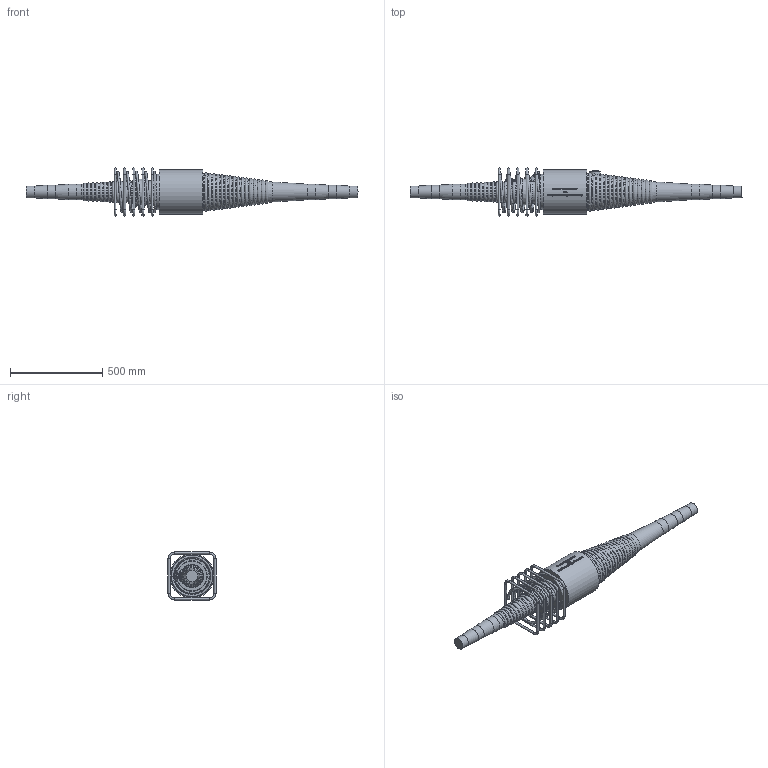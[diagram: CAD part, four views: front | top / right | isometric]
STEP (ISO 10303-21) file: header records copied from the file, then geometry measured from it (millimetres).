
FILE_DESCRIPTION(/* description */ (''),/* implementation_level */ '2;1');
FILE_NAME(/* name */ 'Z:\04 Publications\05 Give-out\BBR\6_3D_Models\BBR VT CONA CMI\BBR VT CONA CMI BT\00806\BBR VT CONA CMI BT 806_Coupler H Assembly_CS-34,28.stp',/* time_stamp */ '2017-05-05T08:10:48+02:00',/* author */ ('IP'),/* organization */ (''),/* preprocessor_version */ 'ST-DEVELOPER v16.1',/* originating_system */ 'Autodesk Inventor 2016',/* authorisation */ '');
FILE_SCHEMA (('AUTOMOTIVE_DESIGN { 1 0 10303 214 3 1 1 }'));
Products named in the file (1): BBR VT CONA CMI BT 806_Coupler H Assembly_CS-34,28
Bounding box: 1797.56 x 260 x 260 mm (x, y, z)
Volume: 27922600.6 mm3; surface area: 1126391.4 mm2
Topology: 7 solids, 7 shells, 971 faces, 2444 edges, 1544 vertices
Faces by surface type: bspline 419, plane 257, torus 131, cylinder 108, cone 34, sphere 22
Full cylindrical faces by diameter (mm): 12 x20, 34 x2, 57 x2, 64 x1, 64.013 x1, 74 x1, 74.013 x1, 84 x1, 84.013 x1, 163.937 x1, 165.108 x1, 190 x1, 240 x1
Entity records: 40954 total; most frequent: CARTESIAN_POINT 21104, ORIENTED_EDGE 4508, DIRECTION 2743, EDGE_CURVE 2254, VERTEX_POINT 1534, EDGE_LOOP 1218, B_SPLINE_CURVE_WITH_KNOTS 1043, AXIS2_PLACEMENT_3D 979
